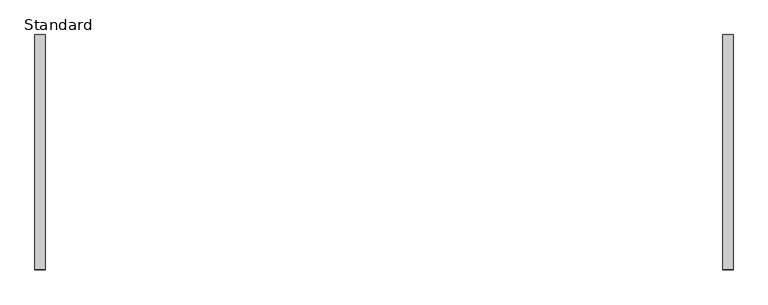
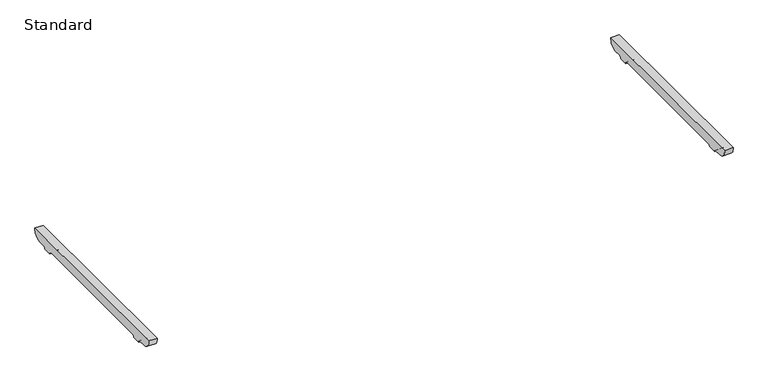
"""IFC4 building model written with IfcOpenShell, lengths in millimetres: furniture geometry, BDG_BossDesign_Tbls_AgentTables4Legs_Nested : Standard."""

from ifc_helpers import new_model, si_unit, point, frame, frame_2d, origin, place, context, project, spatial, polyline, circle_curve, trimmed, segment, composite_curve, outline, extrude, source, transform, mapped, element, save


def standard_3b17631c(model_context):
    return source(origin(), model_context, "Body", "SweptSolid", [
        extrude(outline(composite_curve([segment(polyline([(480.5450184, 672.0), (442.7000122, 672.0)]), True, "CONTINUOUS"), segment(trimmed(circle_curve(frame_2d((442.7000122, 660.0)), 12.0), [point((442.7000122, 672.0))], [point((430.7000122, 660.0))], True, "CARTESIAN"), True, "CONTINUOUS"), segment(polyline([(430.7000122, 660.0), (385.7000122, 660.0)]), True, "CONTINUOUS"), segment(trimmed(circle_curve(frame_2d((373.7000122, 660.0)), 12.0), [point((385.7000122, 660.0))], [point((373.7000122, 672.0))], True, "CARTESIAN"), True, "CONTINUOUS"), segment(polyline([(373.7000122, 672.0), (-373.7000122, 672.0)]), True, "CONTINUOUS"), segment(trimmed(circle_curve(frame_2d((-373.7000122, 660.0)), 12.0), [point((-373.7000122, 672.0))], [point((-385.7000122, 660.0))], True, "CARTESIAN"), True, "CONTINUOUS"), segment(polyline([(-385.7000122, 660.0), (-430.7000122, 660.0)]), True, "CONTINUOUS"), segment(trimmed(circle_curve(frame_2d((-442.7000122, 660.0)), 12.0), [point((-430.7000122, 660.0))], [point((-442.7000122, 672.0))], True, "CARTESIAN"), True, "CONTINUOUS"), segment(polyline([(-442.7000122, 672.0), (-480.5450184, 672.0)]), True, "CONTINUOUS"), segment(trimmed(circle_curve(frame_2d((-478.2220439, 716.5514119)), 44.6119324), [point((-480.5450184, 672.0))], [point((-522.5, 722.0))], False, "CARTESIAN"), True, "CONTINUOUS"), segment(polyline([(-522.5, 722.0), (522.5, 722.0)]), True, "CONTINUOUS"), segment(trimmed(circle_curve(frame_2d((478.2220439, 716.5514119)), 44.6119324), [point((522.5, 722.0))], [point((480.5450184, 672.0))], False, "CARTESIAN"), True, "CONTINUOUS")], self_intersect=False)), frame((1505.0, 0.0, 0.0), z_axis=(1.0, 0.0, 0.0), x_axis=(0.0, 1.0, 0.0)), (0.0, 0.0, 1.0), 45.0),
        extrude(outline(composite_curve([segment(polyline([(480.5450184, 672.0), (442.7000122, 672.0)]), True, "CONTINUOUS"), segment(trimmed(circle_curve(frame_2d((442.7000122, 660.0)), 12.0), [point((442.7000122, 672.0))], [point((430.7000122, 660.0))], True, "CARTESIAN"), True, "CONTINUOUS"), segment(polyline([(430.7000122, 660.0), (385.7000122, 660.0)]), True, "CONTINUOUS"), segment(trimmed(circle_curve(frame_2d((373.7000122, 660.0)), 12.0), [point((385.7000122, 660.0))], [point((373.7000122, 672.0))], True, "CARTESIAN"), True, "CONTINUOUS"), segment(polyline([(373.7000122, 672.0), (-373.7000122, 672.0)]), True, "CONTINUOUS"), segment(trimmed(circle_curve(frame_2d((-373.7000122, 660.0)), 12.0), [point((-373.7000122, 672.0))], [point((-385.7000122, 660.0))], True, "CARTESIAN"), True, "CONTINUOUS"), segment(polyline([(-385.7000122, 660.0), (-430.7000122, 660.0)]), True, "CONTINUOUS"), segment(trimmed(circle_curve(frame_2d((-442.7000122, 660.0)), 12.0), [point((-430.7000122, 660.0))], [point((-442.7000122, 672.0))], True, "CARTESIAN"), True, "CONTINUOUS"), segment(polyline([(-442.7000122, 672.0), (-480.5450184, 672.0)]), True, "CONTINUOUS"), segment(trimmed(circle_curve(frame_2d((-478.2220439, 716.5514119)), 44.6119324), [point((-480.5450184, 672.0))], [point((-522.5, 722.0))], False, "CARTESIAN"), True, "CONTINUOUS"), segment(polyline([(-522.5, 722.0), (522.5, 722.0)]), True, "CONTINUOUS"), segment(trimmed(circle_curve(frame_2d((478.2220439, 716.5514119)), 44.6119324), [point((522.5, 722.0))], [point((480.5450184, 672.0))], False, "CARTESIAN"), True, "CONTINUOUS")], self_intersect=False)), frame((-1550.0, 0.0, 0.0), z_axis=(1.0, 0.0, 0.0), x_axis=(0.0, 1.0, 0.0)), (0.0, 0.0, 1.0), 45.0),
    ])


if __name__ == "__main__":
    model = new_model("IFC4")
    model_context = context("Model", 3, world=origin())
    ifc_project = project(units=[si_unit("LENGTHUNIT", "METRE", prefix="MILLI")], contexts=[model_context])
    site = spatial("IfcSite", under=ifc_project)
    building = spatial("IfcBuilding", under=site)
    placement = place(None, origin())
    standard_shape = standard_3b17631c(model_context)
    element("IfcFurniture", 1, ObjectType="BDG_BossDesign_Tbls_AgentTables4Legs_Nested : Standard", at=placement, inside=building, context=model_context, shape_type="MappedRepresentation", body=[
        mapped(standard_shape, transform((0.0, 0.0, 0.0), x_axis=(1.0, 0.0, 0.0), y_axis=(0.0, 1.0, 0.0), z_axis=(0.0, 0.0, 1.0))),
    ])
    save(model, "model.ifc")
